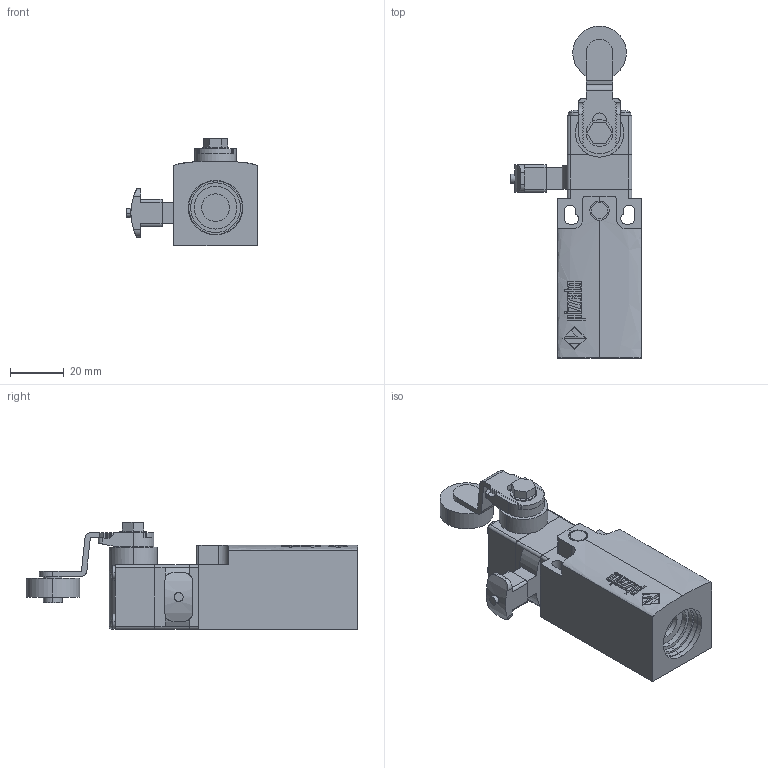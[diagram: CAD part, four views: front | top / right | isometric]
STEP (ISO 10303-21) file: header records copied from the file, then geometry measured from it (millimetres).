
FILE_DESCRIPTION (( 'STEP AP203' ), '1' );
FILE_NAME ('ZF_STEP_FR_x51-W3.STEP', '2024-02-26T08:57:45', ( '' ), ( '' ), 'SwSTEP 2.0', 'SolidWorks 2023', '' );
FILE_SCHEMA (( 'CONFIG_CONTROL_DESIGN' ));
Length unit declared in the file: millimetre
Products named in the file (12): Pizzato_vite; Pizzato_VN_A00KE; Pizzato_Supporto_leve_6325; Pizzato_Custodia_FR_3dweb; Pizzato_Modulo_Reset-W3_3dweb; Pizzato_Supporto_TE38; Pizzato_rosetta_6606_Schiacciata; ZF_STEP_VF_TE38; ZF_STEP_VN_A00KE; ZF_STEP_FR_x51-W3
Assembly tree (11 placements, depth 3):
  ZF_STEP_FR_x51-W3
    Pizzato_Custodia_FR_3dweb
      Pizzato_Custodia_FR_3dweb
    ZF_STEP_VF_TE38
      Pizzato_Supporto_TE38
    ZF_STEP_VN_A00KE
      Pizzato_Supporto_leve_6325
      Pizzato_rosetta_6606_Schiacciata
      Pizzato_vite
      Pizzato_VN_A00KE
    Pizzato_Modulo_Reset-W3_3dweb
      Pizzato_Modulo_Reset-W3_3dweb
Bounding box: 48.8 x 124 x 40.1 mm (x, y, z)
Volume: 79577.7 mm3; surface area: 23640.6 mm2
Topology: 7 solids, 7 shells, 933 faces, 2591 edges, 1724 vertices
Faces by surface type: plane 552, cylinder 258, bspline 114, sphere 8, torus 1
Entity records: 35380 total; most frequent: CARTESIAN_POINT 10784, ORIENTED_EDGE 5182, DIRECTION 4398, EDGE_CURVE 2591, LINE 1738, VECTOR 1738, VERTEX_POINT 1724, AXIS2_PLACEMENT_3D 1330
